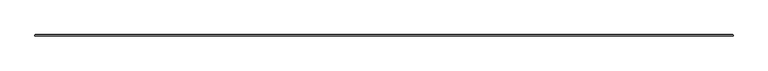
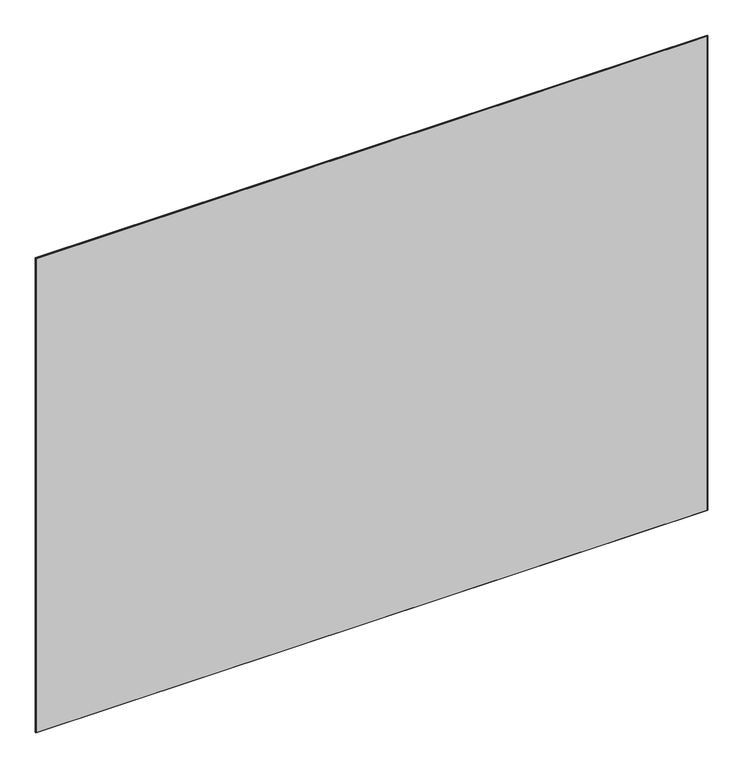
"""IFC4 building model written with IfcOpenShell, lengths in millimetres: plate geometry, 1-AMG-1-Панель одинарный витраж 8, 10 : Смещение 32 Толщина 8mm."""

from ifc_helpers import new_model, si_unit, origin, place, context, project, spatial, faceted_brep, source, transform, mapped, element, save


def plate_7385b507(model_context):
    return source(origin(), model_context, "Body", "Brep", [
        faceted_brep([(1848.0, 29.5038347, 2751.0), (1848.0, 34.4961653, 2751.0), (-1848.0, 34.4961653, 2751.0), (-1848.0, 29.5038347, 2751.0), (1848.0, 34.4961653, -7.0), (1848.0, 29.5038347, -7.0), (-1848.0, 29.5038347, -7.0), (-1848.0, 34.4961653, -7.0), (-1846.4961653, 36.0, 2749.4961653), (1846.4961653, 36.0, 2749.4961653), (1846.4961653, 36.0, -5.5039422), (-1846.4961653, 36.0, -5.5039422), (1846.4961653, 28.0, 2749.4961653), (-1846.4961653, 28.0, 2749.4961653), (-1846.4961653, 28.0, -5.4961653), (1846.4961653, 28.0, -5.4961653)], [[[0, 1, 2, 3]], [[4, 5, 6, 7]], [[8, 9, 10, 11]], [[3, 2, 7, 6]], [[12, 13, 14, 15]], [[1, 0, 5, 4]], [[1, 4, 10, 9]], [[5, 0, 12, 15]], [[7, 2, 8, 11]], [[3, 6, 14, 13]], [[0, 3, 13, 12]], [[2, 1, 9, 8]], [[6, 5, 15, 14]], [[4, 7, 11, 10]]]),
    ])


if __name__ == "__main__":
    model = new_model("IFC4")
    model_context = context("Model", 3, world=origin())
    ifc_project = project(units=[si_unit("LENGTHUNIT", "METRE", prefix="MILLI")], contexts=[model_context])
    site = spatial("IfcSite", under=ifc_project)
    building = spatial("IfcBuilding", under=site)
    placement = place(None, origin())
    plate_shape = plate_7385b507(model_context)
    element("IfcPlate", 1, ObjectType="1-AMG-1-Панель одинарный витраж 8, 10 : Смещение 32 Толщина 8mm", at=placement, inside=building, context=model_context, shape_type="MappedRepresentation", body=[
        mapped(plate_shape, transform((0.0, 0.0, 0.0), x_axis=(1.0, 0.0, 0.0), y_axis=(0.0, 1.0, 0.0), z_axis=(0.0, 0.0, 1.0))),
    ])
    save(model, "model.ifc")
